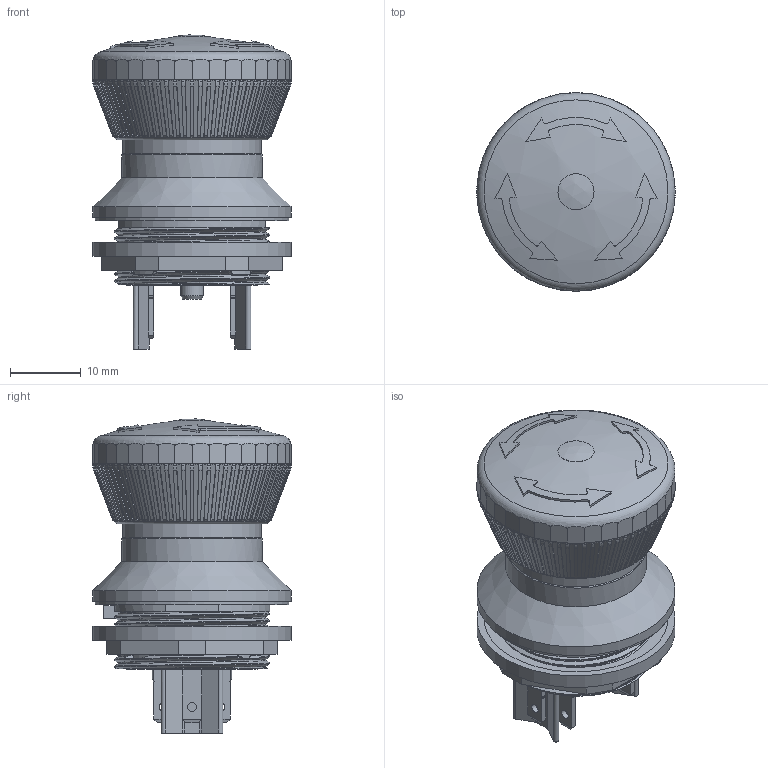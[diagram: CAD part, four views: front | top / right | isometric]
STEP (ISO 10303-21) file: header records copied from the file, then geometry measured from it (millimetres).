
FILE_DESCRIPTION(/* description */ (''),/* implementation_level */ '2;1');
FILE_NAME(/* name */ 'FRVKLOO_vereinfacht.stp',/* time_stamp */ '2025-03-10T11:25:34+01:00',/* author */ ('Sz'),/* organization */ (''),/* preprocessor_version */ 'ST-DEVELOPER v19.2',/* originating_system */ 'Autodesk Inventor 2023',/* authorisation */ '');
FILE_SCHEMA (('AUTOMOTIVE_DESIGN { 1 0 10303 214 3 1 1 }'));
Length unit declared in the file: centimetre
Products named in the file (1): Bauteil72
Bounding box: 28 x 28 x 44.34 mm (x, y, z)
Volume: 15933.3 mm3; surface area: 6522.8 mm2
Topology: 1 solids, 1 shells, 1089 faces, 2965 edges, 1878 vertices
Faces by surface type: plane 504, torus 218, cylinder 213, cone 83, bspline 66, sphere 5
Full cylindrical faces by diameter (mm): 1 x3, 1.3 x6, 3.2 x3, 5.1 x1, 18.5 x1, 19.65 x1, 19.85 x1, 20.92 x1, 22 x1, 26 x1, 27.4 x1, 28 x2
Entity records: 46387 total; most frequent: CARTESIAN_POINT 19464, ORIENTED_EDGE 5930, DIRECTION 4896, EDGE_CURVE 2965, AXIS2_PLACEMENT_3D 1965, VERTEX_POINT 1878, EDGE_LOOP 1139, STYLED_ITEM 1090
